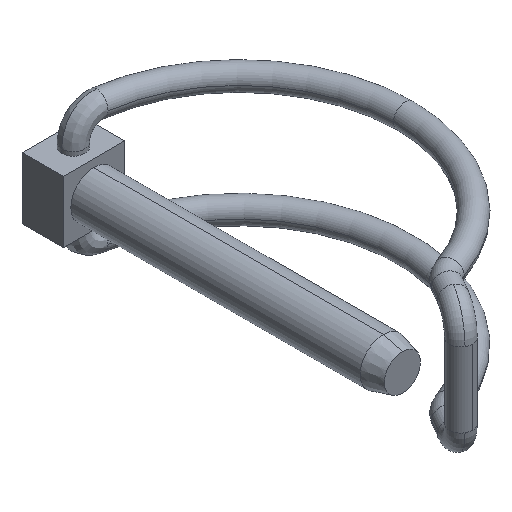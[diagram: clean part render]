
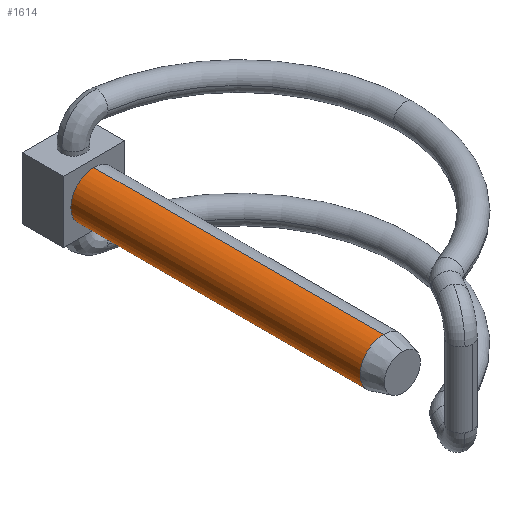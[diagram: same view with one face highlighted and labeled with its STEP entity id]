
A CAD part, isometric view. The second image highlights one B-rep face of the part: STEP entity #1614.
In plain terms, the highlighted cylindrical face has radius 3 mm (diameter 6 mm), a partial arc.
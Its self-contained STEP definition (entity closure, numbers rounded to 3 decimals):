
#101 = EDGE_CURVE ( 'NONE', #1631, #1052, #1098, .T. ) ;
#284 = DIRECTION ( 'NONE',  ( 0., 0., 1. ) ) ;
#308 = CARTESIAN_POINT ( 'NONE',  ( 0., 0., -3. ) ) ;
#336 = CYLINDRICAL_SURFACE ( 'NONE', #1592, 3. ) ;
#338 = DIRECTION ( 'NONE',  ( 0., 1., 0. ) ) ;
#370 = CARTESIAN_POINT ( 'NONE',  ( 0., 0., 3. ) ) ;
#443 = CARTESIAN_POINT ( 'NONE',  ( 0., 0., 0. ) ) ;
#459 = FACE_OUTER_BOUND ( 'NONE', #1701, .T. ) ;
#462 = CARTESIAN_POINT ( 'NONE',  ( 0., -37.512, 0. ) ) ;
#508 = ORIENTED_EDGE ( 'NONE', *, *, #998, .T. ) ;
#586 = DIRECTION ( 'NONE',  ( 0., 0., 1. ) ) ;
#651 = AXIS2_PLACEMENT_3D ( 'NONE', #443, #1151, #284 ) ;
#708 = CARTESIAN_POINT ( 'NONE',  ( 0., -37.512, 3. ) ) ;
#799 = VERTEX_POINT ( 'NONE', #370 ) ;
#824 = DIRECTION ( 'NONE',  ( 0., 1., 0. ) ) ;
#848 = ORIENTED_EDGE ( 'NONE', *, *, #989, .F. ) ;
#854 = CARTESIAN_POINT ( 'NONE',  ( 0., -40., 3. ) ) ;
#898 = DIRECTION ( 'NONE',  ( 0., 1., 0. ) ) ;
#925 = ORIENTED_EDGE ( 'NONE', *, *, #1063, .T. ) ;
#989 = EDGE_CURVE ( 'NONE', #1052, #799, #1540, .T. ) ;
#998 = EDGE_CURVE ( 'NONE', #1495, #799, #1578, .T. ) ;
#1052 = VERTEX_POINT ( 'NONE', #308 ) ;
#1063 = EDGE_CURVE ( 'NONE', #1631, #1495, #1481, .T. ) ;
#1098 = LINE ( 'NONE', #1378, #1428 ) ;
#1151 = DIRECTION ( 'NONE',  ( 0., 1., 0. ) ) ;
#1378 = CARTESIAN_POINT ( 'NONE',  ( 0., -40., -3. ) ) ;
#1415 = DIRECTION ( 'NONE',  ( 0., 1., 0. ) ) ;
#1428 = VECTOR ( 'NONE', #1415, 1000. ) ;
#1453 = AXIS2_PLACEMENT_3D ( 'NONE', #462, #338, #586 ) ;
#1454 = CARTESIAN_POINT ( 'NONE',  ( 0., -40., 0. ) ) ;
#1481 = CIRCLE ( 'NONE', #1453, 3. ) ;
#1495 = VERTEX_POINT ( 'NONE', #708 ) ;
#1540 = CIRCLE ( 'NONE', #651, 3. ) ;
#1568 = ORIENTED_EDGE ( 'NONE', *, *, #101, .F. ) ;
#1578 = LINE ( 'NONE', #854, #1782 ) ;
#1592 = AXIS2_PLACEMENT_3D ( 'NONE', #1454, #898, #1756 ) ;
#1614 = ADVANCED_FACE ( 'NONE', ( #459 ), #336, .T. ) ;
#1631 = VERTEX_POINT ( 'NONE', #1725 ) ;
#1701 = EDGE_LOOP ( 'NONE', ( #1568, #925, #508, #848 ) ) ;
#1725 = CARTESIAN_POINT ( 'NONE',  ( 0., -37.512, -3. ) ) ;
#1756 = DIRECTION ( 'NONE',  ( 0., 0., 1. ) ) ;
#1782 = VECTOR ( 'NONE', #824, 1000. ) ;
